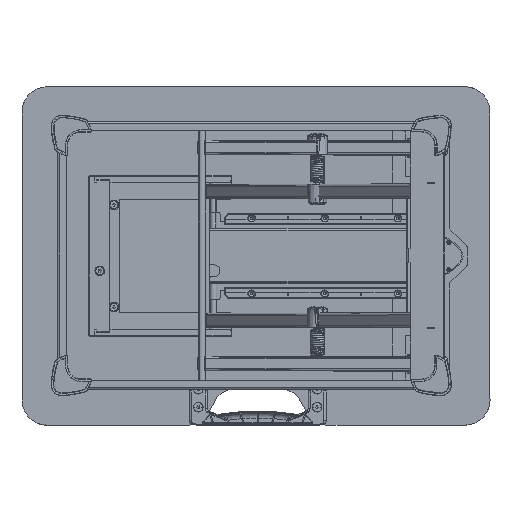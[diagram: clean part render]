
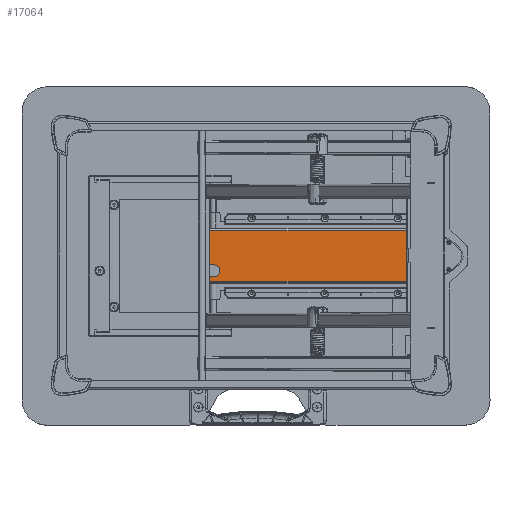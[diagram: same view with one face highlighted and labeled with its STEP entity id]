
A CAD part, top view. The second image highlights one B-rep face of the part: STEP entity #17064.
In plain terms, the highlighted planar face has unit normal (0, 0, 1) as drawn and (1, 0, 0) by its records, which use the part's own axes.
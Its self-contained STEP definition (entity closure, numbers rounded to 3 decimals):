
#16712=CARTESIAN_POINT('Vertex',(561.992,293.906,-66.688)) ;
#16737=CARTESIAN_POINT('Line Origine',(561.992,143.289,-66.688)) ;
#16741=CARTESIAN_POINT('Vertex',(561.992,-7.328,-66.688)) ;
#16787=CARTESIAN_POINT('Line Origine',(561.992,-7.328,-64.677)) ;
#16791=CARTESIAN_POINT('Vertex',(561.992,-7.328,-62.665)) ;
#16818=CARTESIAN_POINT('Axis2P3D Location',(561.992,-5.328,-62.665)) ;
#16822=CARTESIAN_POINT('Vertex',(561.992,-5.328,-60.665)) ;
#16849=CARTESIAN_POINT('Line Origine',(561.992,-3.45,-60.665)) ;
#16853=CARTESIAN_POINT('Vertex',(561.992,-1.571,-60.665)) ;
#16873=CARTESIAN_POINT('Axis2P3D Location',(561.992,-1.571,-52.165)) ;
#16877=CARTESIAN_POINT('Vertex',(561.992,-1.571,-43.665)) ;
#16904=CARTESIAN_POINT('Line Origine',(561.992,-3.45,-43.665)) ;
#16908=CARTESIAN_POINT('Vertex',(561.992,-5.328,-43.665)) ;
#16942=CARTESIAN_POINT('Axis2P3D Location',(561.992,-5.328,-41.665)) ;
#16946=CARTESIAN_POINT('Vertex',(561.992,-7.328,-41.665)) ;
#16961=CARTESIAN_POINT('Line Origine',(561.992,-7.328,-18.977)) ;
#16965=CARTESIAN_POINT('Vertex',(561.992,-7.328,3.712)) ;
#16987=CARTESIAN_POINT('Axis2P3D Location',(561.992,856.053,-287.562)) ;
#16992=CARTESIAN_POINT('Line Origine',(561.992,155.789,3.512)) ;
#16996=CARTESIAN_POINT('Vertex',(561.992,293.906,3.512)) ;
#16998=CARTESIAN_POINT('Vertex',(561.992,294.25,3.512)) ;
#17001=CARTESIAN_POINT('Line Origine',(561.992,293.906,-31.488)) ;
#17005=CARTESIAN_POINT('Vertex',(561.992,293.906,3.712)) ;
#17008=CARTESIAN_POINT('Line Origine',(561.992,155.789,3.712)) ;
#17013=CARTESIAN_POINT('Line Origine',(561.992,293.906,-31.488)) ;
#17017=CARTESIAN_POINT('Vertex',(561.992,293.906,-66.488)) ;
#17020=CARTESIAN_POINT('Line Origine',(561.992,155.789,-66.488)) ;
#17024=CARTESIAN_POINT('Vertex',(561.992,294.25,-66.488)) ;
#17027=CARTESIAN_POINT('Line Origine',(561.992,294.25,-31.488)) ;
#17031=CARTESIAN_POINT('Vertex',(561.992,294.25,-41.488)) ;
#17034=CARTESIAN_POINT('Line Origine',(561.992,294.25,-31.488)) ;
#17038=CARTESIAN_POINT('Vertex',(561.992,294.25,-21.488)) ;
#17041=CARTESIAN_POINT('Line Origine',(561.992,294.25,-31.488)) ;
#16738=DIRECTION('Vector Direction',(0.,1.,0.)) ;
#16788=DIRECTION('Vector Direction',(0.,0.,1.)) ;
#16819=DIRECTION('Axis2P3D Direction',(1.,0.,0.)) ;
#16850=DIRECTION('Vector Direction',(0.,1.,0.)) ;
#16874=DIRECTION('Axis2P3D Direction',(1.,0.,0.)) ;
#16905=DIRECTION('Vector Direction',(0.,1.,0.)) ;
#16943=DIRECTION('Axis2P3D Direction',(1.,0.,0.)) ;
#16962=DIRECTION('Vector Direction',(0.,0.,1.)) ;
#16988=DIRECTION('Axis2P3D Direction',(1.,0.,0.)) ;
#16989=DIRECTION('Axis2P3D XDirection',(0.,-1.,0.)) ;
#16993=DIRECTION('Vector Direction',(0.,-1.,0.)) ;
#17002=DIRECTION('Vector Direction',(0.,0.,-1.)) ;
#17009=DIRECTION('Vector Direction',(0.,-1.,0.)) ;
#17014=DIRECTION('Vector Direction',(0.,0.,-1.)) ;
#17021=DIRECTION('Vector Direction',(0.,-1.,0.)) ;
#17028=DIRECTION('Vector Direction',(0.,0.,-1.)) ;
#17035=DIRECTION('Vector Direction',(0.,0.,-1.)) ;
#17042=DIRECTION('Vector Direction',(0.,0.,-1.)) ;
#16820=AXIS2_PLACEMENT_3D('Circle Axis2P3D',#16818,#16819,$) ;
#16875=AXIS2_PLACEMENT_3D('Circle Axis2P3D',#16873,#16874,$) ;
#16944=AXIS2_PLACEMENT_3D('Circle Axis2P3D',#16942,#16943,$) ;
#16990=AXIS2_PLACEMENT_3D('Plane Axis2P3D',#16987,#16988,#16989) ;
#17047=ORIENTED_EDGE('',*,*,#17000,.F.) ;
#17048=ORIENTED_EDGE('',*,*,#17007,.F.) ;
#17049=ORIENTED_EDGE('',*,*,#17012,.T.) ;
#17050=ORIENTED_EDGE('',*,*,#16967,.F.) ;
#17051=ORIENTED_EDGE('',*,*,#16948,.T.) ;
#17052=ORIENTED_EDGE('',*,*,#16910,.T.) ;
#17053=ORIENTED_EDGE('',*,*,#16879,.F.) ;
#17054=ORIENTED_EDGE('',*,*,#16855,.F.) ;
#17055=ORIENTED_EDGE('',*,*,#16824,.T.) ;
#17056=ORIENTED_EDGE('',*,*,#16793,.F.) ;
#17057=ORIENTED_EDGE('',*,*,#16743,.F.) ;
#17058=ORIENTED_EDGE('',*,*,#17019,.F.) ;
#17059=ORIENTED_EDGE('',*,*,#17026,.T.) ;
#17060=ORIENTED_EDGE('',*,*,#17033,.T.) ;
#17061=ORIENTED_EDGE('',*,*,#17040,.F.) ;
#17062=ORIENTED_EDGE('',*,*,#17045,.T.) ;
#16739=VECTOR('Line Direction',#16738,1.) ;
#16789=VECTOR('Line Direction',#16788,1.) ;
#16851=VECTOR('Line Direction',#16850,1.) ;
#16906=VECTOR('Line Direction',#16905,1.) ;
#16963=VECTOR('Line Direction',#16962,1.) ;
#16994=VECTOR('Line Direction',#16993,1.) ;
#17003=VECTOR('Line Direction',#17002,1.) ;
#17010=VECTOR('Line Direction',#17009,1.) ;
#17015=VECTOR('Line Direction',#17014,1.) ;
#17022=VECTOR('Line Direction',#17021,1.) ;
#17029=VECTOR('Line Direction',#17028,1.) ;
#17036=VECTOR('Line Direction',#17035,1.) ;
#17043=VECTOR('Line Direction',#17042,1.) ;
#17064=ADVANCED_FACE('\X2\96F64EF651E04F554F53\X0\',(#17063),#16991,.T.) ;
#16821=CIRCLE('generated circle',#16820,2.) ;
#16876=CIRCLE('generated circle',#16875,8.5) ;
#16945=CIRCLE('generated circle',#16944,2.) ;
#16743=EDGE_CURVE('',#16713,#16742,#16740,.F.) ;
#16793=EDGE_CURVE('',#16742,#16792,#16790,.T.) ;
#16824=EDGE_CURVE('',#16823,#16792,#16821,.T.) ;
#16855=EDGE_CURVE('',#16823,#16854,#16852,.T.) ;
#16879=EDGE_CURVE('',#16854,#16878,#16876,.T.) ;
#16910=EDGE_CURVE('',#16909,#16878,#16907,.T.) ;
#16948=EDGE_CURVE('',#16947,#16909,#16945,.T.) ;
#16967=EDGE_CURVE('',#16947,#16966,#16964,.T.) ;
#17000=EDGE_CURVE('',#16997,#16999,#16995,.F.) ;
#17007=EDGE_CURVE('',#17006,#16997,#17004,.T.) ;
#17012=EDGE_CURVE('',#17006,#16966,#17011,.T.) ;
#17019=EDGE_CURVE('',#17018,#16713,#17016,.T.) ;
#17026=EDGE_CURVE('',#17018,#17025,#17023,.F.) ;
#17033=EDGE_CURVE('',#17025,#17032,#17030,.F.) ;
#17040=EDGE_CURVE('',#17039,#17032,#17037,.T.) ;
#17045=EDGE_CURVE('',#17039,#16999,#17044,.F.) ;
#17046=EDGE_LOOP('',(#17047,#17048,#17049,#17050,#17051,#17052,#17053,#17054,#17055,#17056,#17057,#17058,#17059,#17060,#17061,#17062)) ;
#17063=FACE_OUTER_BOUND('',#17046,.T.) ;
#16740=LINE('Line',#16737,#16739) ;
#16790=LINE('Line',#16787,#16789) ;
#16852=LINE('Line',#16849,#16851) ;
#16907=LINE('Line',#16904,#16906) ;
#16964=LINE('Line',#16961,#16963) ;
#16995=LINE('Line',#16992,#16994) ;
#17004=LINE('Line',#17001,#17003) ;
#17011=LINE('Line',#17008,#17010) ;
#17016=LINE('Line',#17013,#17015) ;
#17023=LINE('Line',#17020,#17022) ;
#17030=LINE('Line',#17027,#17029) ;
#17037=LINE('Line',#17034,#17036) ;
#17044=LINE('Line',#17041,#17043) ;
#16991=PLANE('',#16990) ;
#16713=VERTEX_POINT('',#16712) ;
#16742=VERTEX_POINT('',#16741) ;
#16792=VERTEX_POINT('',#16791) ;
#16823=VERTEX_POINT('',#16822) ;
#16854=VERTEX_POINT('',#16853) ;
#16878=VERTEX_POINT('',#16877) ;
#16909=VERTEX_POINT('',#16908) ;
#16947=VERTEX_POINT('',#16946) ;
#16966=VERTEX_POINT('',#16965) ;
#16997=VERTEX_POINT('',#16996) ;
#16999=VERTEX_POINT('',#16998) ;
#17006=VERTEX_POINT('',#17005) ;
#17018=VERTEX_POINT('',#17017) ;
#17025=VERTEX_POINT('',#17024) ;
#17032=VERTEX_POINT('',#17031) ;
#17039=VERTEX_POINT('',#17038) ;
